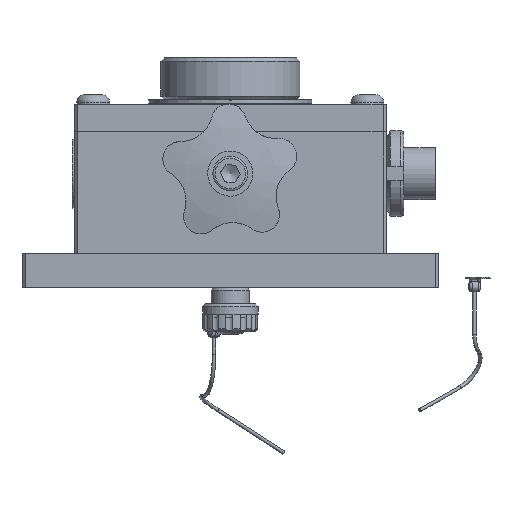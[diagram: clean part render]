
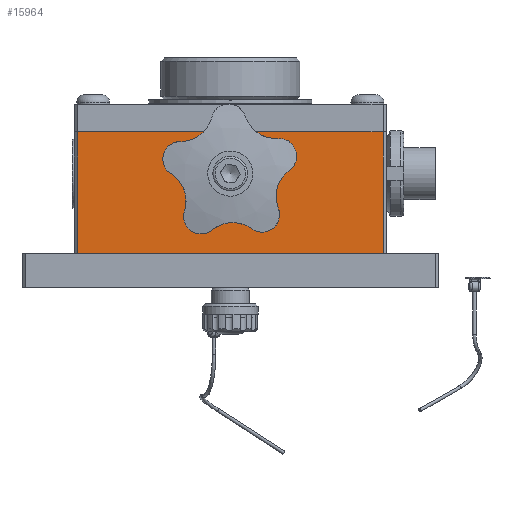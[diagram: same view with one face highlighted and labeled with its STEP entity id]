
A CAD part, front view. The second image highlights one B-rep face of the part: STEP entity #15964.
In plain terms, the highlighted planar face has unit normal (0, -1, 0) as drawn and (1, 0, 0) by its records, which use the part's own axes.
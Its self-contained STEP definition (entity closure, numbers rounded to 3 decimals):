
#1084=FACE_BOUND('',#2814,.T.);
#1263=PLANE('',#17621);
#1869=FACE_OUTER_BOUND('',#2813,.T.);
#2813=EDGE_LOOP('',(#11497,#11498,#11499,#11500));
#2814=EDGE_LOOP('',(#11501));
#3889=LINE('',#23864,#5313);
#3906=LINE('',#23905,#5330);
#3911=LINE('',#23927,#5335);
#3912=LINE('',#23929,#5336);
#5313=VECTOR('',#19364,10.);
#5330=VECTOR('',#19401,10.);
#5335=VECTOR('',#19424,10.);
#5336=VECTOR('',#19427,10.);
#6731=CIRCLE('',#17588,6.959);
#7372=VERTEX_POINT('',#23817);
#7391=VERTEX_POINT('',#23861);
#7392=VERTEX_POINT('',#23863);
#7405=VERTEX_POINT('',#23902);
#7406=VERTEX_POINT('',#23904);
#8985=EDGE_CURVE('',#7372,#7372,#6731,.T.);
#9005=EDGE_CURVE('',#7392,#7391,#3889,.T.);
#9028=EDGE_CURVE('',#7405,#7406,#3906,.T.);
#9041=EDGE_CURVE('',#7406,#7391,#3911,.T.);
#9042=EDGE_CURVE('',#7392,#7405,#3912,.T.);
#11497=ORIENTED_EDGE('',*,*,#9041,.F.);
#11498=ORIENTED_EDGE('',*,*,#9028,.F.);
#11499=ORIENTED_EDGE('',*,*,#9042,.F.);
#11500=ORIENTED_EDGE('',*,*,#9005,.T.);
#11501=ORIENTED_EDGE('',*,*,#8985,.T.);
#15964=ADVANCED_FACE('',(#1869,#1084),#1263,.T.);
#17588=AXIS2_PLACEMENT_3D('',#23819,#19325,#19326);
#17621=AXIS2_PLACEMENT_3D('',#23928,#19425,#19426);
#19325=DIRECTION('center_axis',(-1.,0.,0.));
#19326=DIRECTION('ref_axis',(0.,0.,
1.));
#19364=DIRECTION('',(0.,0.,1.));
#19401=DIRECTION('',(0.,0.,1.));
#19424=DIRECTION('',(0.,1.,0.));
#19425=DIRECTION('center_axis',(1.,0.,0.));
#19426=DIRECTION('ref_axis',(0.,1.,0.));
#19427=DIRECTION('',(0.,-1.,0.));
#23817=CARTESIAN_POINT('',(40.,5.5,38.041));
#23819=CARTESIAN_POINT('Origin',(40.,5.5,45.));
#23861=CARTESIAN_POINT('',(40.,17.5,89.));
#23863=CARTESIAN_POINT('',(40.,17.5,1.));
#23864=CARTESIAN_POINT('',(40.,17.5,0.));
#23902=CARTESIAN_POINT('',(40.,-17.5,1.));
#23904=CARTESIAN_POINT('',(40.,-17.5,89.));
#23905=CARTESIAN_POINT('',(40.,-17.5,0.));
#23927=CARTESIAN_POINT('',(40.,-8.75,89.));
#23928=CARTESIAN_POINT('Origin',(40.,-17.5,0.));
#23929=CARTESIAN_POINT('',(40.,-8.75,1.));
